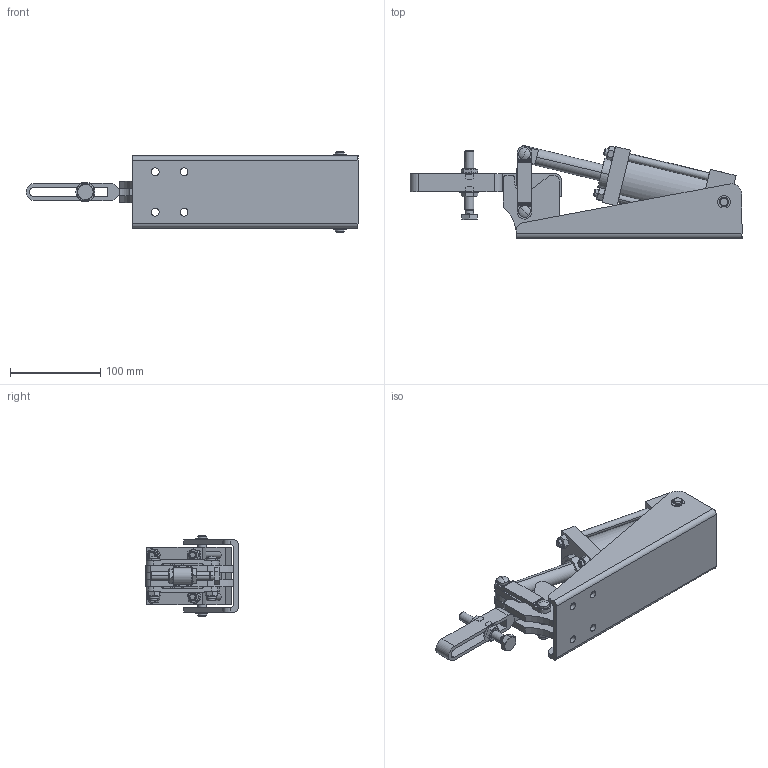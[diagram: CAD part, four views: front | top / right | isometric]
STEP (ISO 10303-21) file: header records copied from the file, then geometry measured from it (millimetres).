
FILE_DESCRIPTION((''),'2;1');
FILE_NAME('C:\Documents and Settings\Matthew\My Documents\TOGGLE CLAMP STEP FILES\Air Horizontal\AH500\AH500U.stp','2004-02-12T11:15:24',('matthew'),(''),'Autodesk Inventor (R) 6.0','Autodesk Inventor (R) 6.0','');
FILE_SCHEMA(('AUTOMOTIVE_DESIGN { 1 0 10303 214 1 1 1 1 }'));
Length unit declared in the file: millimetre
Products named in the file (9): AH500U; AH500U1; AH500U2; AH500U3; AH500U4; AH500U5; AH500U6; AH500U7; AH500U8
Assembly tree (8 placements, depth 2):
  AH500U
    AH500U1
    AH500U2
    AH500U3
    AH500U4
    AH500U5
    AH500U6
    AH500U7
    AH500U8
Bounding box: 368.01 x 102.55 x 89 mm (x, y, z)
Volume: 769989.8 mm3; surface area: 192768.4 mm2
Topology: 9 solids, 69 shells, 835 faces, 1947 edges, 1273 vertices
Faces by surface type: plane 463, cylinder 198, bspline 102, cone 68, sphere 4
Entity records: 27093 total; most frequent: CARTESIAN_POINT 8002, DIRECTION 3916, ORIENTED_EDGE 3886, EDGE_CURVE 1943, AXIS2_PLACEMENT_3D 1403, VERTEX_POINT 1273, VECTOR 1110, LINE 1110
